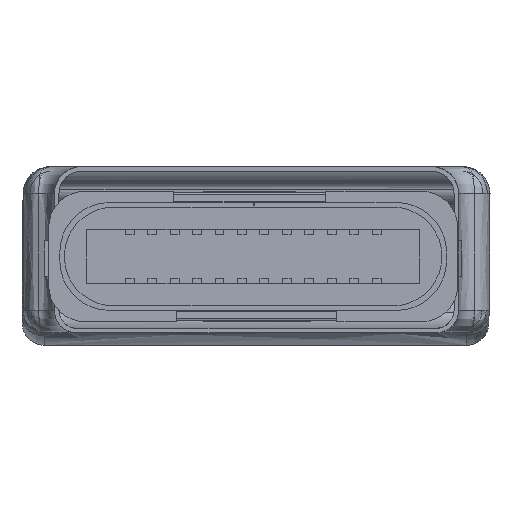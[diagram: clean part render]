
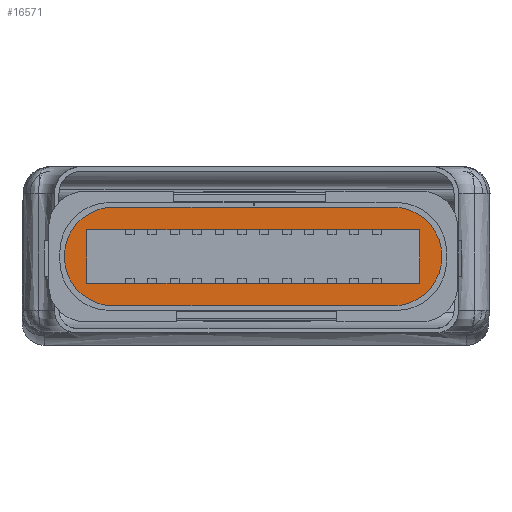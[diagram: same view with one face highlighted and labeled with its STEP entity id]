
A CAD part, front view. The second image highlights one B-rep face of the part: STEP entity #16571.
In plain terms, the highlighted planar face has unit normal (0, -1, 0) as drawn and (0, 1, 0) by its records, which use the part's own axes.
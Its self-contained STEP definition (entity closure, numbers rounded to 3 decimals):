
#12639 = EDGE_CURVE('',#12640,#12642,#12644,.T.);
#12640 = VERTEX_POINT('',#12641);
#12641 = CARTESIAN_POINT('',(-4.555,10.48,-2.55));
#12642 = VERTEX_POINT('',#12643);
#12643 = CARTESIAN_POINT('',(-7.66,10.48,-2.55));
#12644 = LINE('',#12645,#12646);
#12645 = CARTESIAN_POINT('',(-0.35,10.48,-2.55));
#12646 = VECTOR('',#12647,1.);
#12647 = DIRECTION('',(-1.,0.,0.));
#16515 = VERTEX_POINT('',#16516);
#16516 = CARTESIAN_POINT('',(-1.45,10.48,-0.35));
#16522 = EDGE_CURVE('',#16523,#16515,#16525,.T.);
#16523 = VERTEX_POINT('',#16524);
#16524 = CARTESIAN_POINT('',(-7.66,10.48,-0.35));
#16525 = LINE('',#16526,#16527);
#16526 = CARTESIAN_POINT('',(-8.76,10.48,-0.35));
#16527 = VECTOR('',#16528,1.);
#16528 = DIRECTION('',(1.,0.,0.));
#16546 = VERTEX_POINT('',#16547);
#16547 = CARTESIAN_POINT('',(-4.525,10.48,-2.55));
#16553 = EDGE_CURVE('',#16554,#16546,#16556,.T.);
#16554 = VERTEX_POINT('',#16555);
#16555 = CARTESIAN_POINT('',(-1.45,10.48,-2.55));
#16556 = LINE('',#16557,#16558);
#16557 = CARTESIAN_POINT('',(-0.35,10.48,-2.55));
#16558 = VECTOR('',#16559,1.);
#16559 = DIRECTION('',(-1.,0.,0.));
#16571 = ADVANCED_FACE('',(#16572,#16606),#16649,.T.);
#16572 = FACE_BOUND('',#16573,.T.);
#16573 = EDGE_LOOP('',(#16574,#16584,#16592,#16600));
#16574 = ORIENTED_EDGE('',*,*,#16575,.F.);
#16575 = EDGE_CURVE('',#16576,#16578,#16580,.T.);
#16576 = VERTEX_POINT('',#16577);
#16577 = CARTESIAN_POINT('',(-0.85,10.48,-2.05));
#16578 = VERTEX_POINT('',#16579);
#16579 = CARTESIAN_POINT('',(-8.26,10.48,-2.05));
#16580 = LINE('',#16581,#16582);
#16581 = CARTESIAN_POINT('',(-8.26,10.48,-2.05));
#16582 = VECTOR('',#16583,1.);
#16583 = DIRECTION('',(-1.,0.,0.));
#16584 = ORIENTED_EDGE('',*,*,#16585,.F.);
#16585 = EDGE_CURVE('',#16586,#16576,#16588,.T.);
#16586 = VERTEX_POINT('',#16587);
#16587 = CARTESIAN_POINT('',(-0.85,10.48,-0.85));
#16588 = LINE('',#16589,#16590);
#16589 = CARTESIAN_POINT('',(-0.85,10.48,-2.05));
#16590 = VECTOR('',#16591,1.);
#16591 = DIRECTION('',(0.,0.,-1.));
#16592 = ORIENTED_EDGE('',*,*,#16593,.F.);
#16593 = EDGE_CURVE('',#16594,#16586,#16596,.T.);
#16594 = VERTEX_POINT('',#16595);
#16595 = CARTESIAN_POINT('',(-8.26,10.48,-0.85));
#16596 = LINE('',#16597,#16598);
#16597 = CARTESIAN_POINT('',(-0.85,10.48,-0.85));
#16598 = VECTOR('',#16599,1.);
#16599 = DIRECTION('',(1.,-0.,0.));
#16600 = ORIENTED_EDGE('',*,*,#16601,.F.);
#16601 = EDGE_CURVE('',#16578,#16594,#16602,.T.);
#16602 = LINE('',#16603,#16604);
#16603 = CARTESIAN_POINT('',(-8.26,10.48,-0.85));
#16604 = VECTOR('',#16605,1.);
#16605 = DIRECTION('',(-0.,0.,1.));
#16606 = FACE_BOUND('',#16607,.T.);
#16607 = EDGE_LOOP('',(#16608,#16617,#16624,#16625,#16631,#16632,#16641,
    #16648));
#16608 = ORIENTED_EDGE('',*,*,#16609,.T.);
#16609 = EDGE_CURVE('',#16515,#16610,#16612,.T.);
#16610 = VERTEX_POINT('',#16611);
#16611 = CARTESIAN_POINT('',(-0.35,10.48,-1.45));
#16612 = CIRCLE('',#16613,1.1);
#16613 = AXIS2_PLACEMENT_3D('',#16614,#16615,#16616);
#16614 = CARTESIAN_POINT('',(-1.45,10.48,-1.45));
#16615 = DIRECTION('',(0.,1.,0.));
#16616 = DIRECTION('',(0.,-0.,1.));
#16617 = ORIENTED_EDGE('',*,*,#16618,.T.);
#16618 = EDGE_CURVE('',#16610,#16554,#16619,.T.);
#16619 = CIRCLE('',#16620,1.1);
#16620 = AXIS2_PLACEMENT_3D('',#16621,#16622,#16623);
#16621 = CARTESIAN_POINT('',(-1.45,10.48,-1.45));
#16622 = DIRECTION('',(0.,1.,0.));
#16623 = DIRECTION('',(0.,-0.,1.));
#16624 = ORIENTED_EDGE('',*,*,#16553,.T.);
#16625 = ORIENTED_EDGE('',*,*,#16626,.T.);
#16626 = EDGE_CURVE('',#16546,#12640,#16627,.T.);
#16627 = LINE('',#16628,#16629);
#16628 = CARTESIAN_POINT('',(-0.35,10.48,-2.55));
#16629 = VECTOR('',#16630,1.);
#16630 = DIRECTION('',(-1.,0.,0.));
#16631 = ORIENTED_EDGE('',*,*,#12639,.T.);
#16632 = ORIENTED_EDGE('',*,*,#16633,.T.);
#16633 = EDGE_CURVE('',#12642,#16634,#16636,.T.);
#16634 = VERTEX_POINT('',#16635);
#16635 = CARTESIAN_POINT('',(-8.76,10.48,-1.45));
#16636 = CIRCLE('',#16637,1.1);
#16637 = AXIS2_PLACEMENT_3D('',#16638,#16639,#16640);
#16638 = CARTESIAN_POINT('',(-7.66,10.48,-1.45));
#16639 = DIRECTION('',(0.,1.,0.));
#16640 = DIRECTION('',(0.,-0.,1.));
#16641 = ORIENTED_EDGE('',*,*,#16642,.T.);
#16642 = EDGE_CURVE('',#16634,#16523,#16643,.T.);
#16643 = CIRCLE('',#16644,1.1);
#16644 = AXIS2_PLACEMENT_3D('',#16645,#16646,#16647);
#16645 = CARTESIAN_POINT('',(-7.66,10.48,-1.45));
#16646 = DIRECTION('',(0.,1.,0.));
#16647 = DIRECTION('',(0.,-0.,1.));
#16648 = ORIENTED_EDGE('',*,*,#16522,.T.);
#16649 = PLANE('',#16650);
#16650 = AXIS2_PLACEMENT_3D('',#16651,#16652,#16653);
#16651 = CARTESIAN_POINT('',(0.,10.48,0.));
#16652 = DIRECTION('',(0.,1.,0.));
#16653 = DIRECTION('',(0.,-0.,1.));
